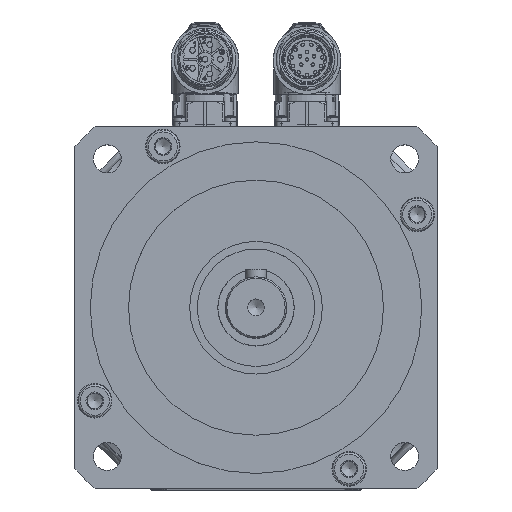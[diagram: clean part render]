
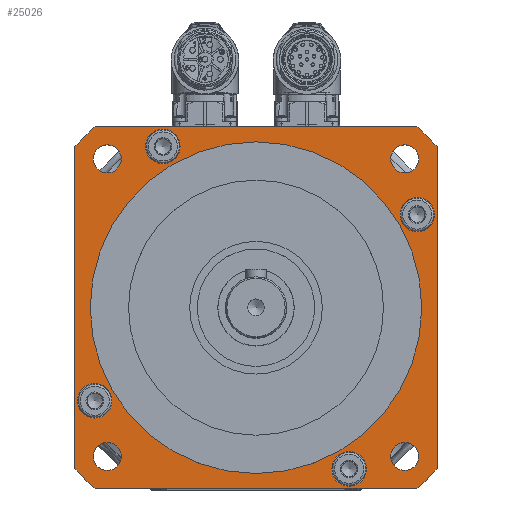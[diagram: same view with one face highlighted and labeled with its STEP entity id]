
A CAD part, top view. The second image highlights one B-rep face of the part: STEP entity #25026.
In plain terms, the highlighted planar face has unit normal (0, 0, 1).
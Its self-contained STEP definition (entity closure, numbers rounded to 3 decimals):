
#1999=LINE('',#36812,#3232);
#2003=LINE('',#36818,#3236);
#2004=LINE('',#36820,#3237);
#2005=LINE('',#36822,#3238);
#3232=VECTOR('',#29978,126.238);
#3236=VECTOR('',#29986,126.238);
#3237=VECTOR('',#29989,126.238);
#3238=VECTOR('',#29992,126.238);
#6058=FACE_BOUND('',#8301,.T.);
#6059=FACE_BOUND('',#8302,.T.);
#6060=FACE_BOUND('',#8303,.T.);
#6061=FACE_BOUND('',#8304,.T.);
#6062=FACE_BOUND('',#8305,.T.);
#6063=FACE_BOUND('',#8306,.T.);
#6064=FACE_BOUND('',#8307,.T.);
#6065=FACE_BOUND('',#8308,.T.);
#6066=FACE_BOUND('',#8309,.T.);
#6067=FACE_BOUND('',#8310,.T.);
#8301=EDGE_LOOP('',(#18042));
#8302=EDGE_LOOP('',(#18043));
#8303=EDGE_LOOP('',(#18044));
#8304=EDGE_LOOP('',(#18045));
#8305=EDGE_LOOP('',(#18046));
#8306=EDGE_LOOP('',(#18047));
#8307=EDGE_LOOP('',(#18048));
#8308=EDGE_LOOP('',(#18049));
#8309=EDGE_LOOP('',(#18050));
#8310=EDGE_LOOP('',(#18051,#18052,#18053,#18054,#18055,#18056,#18057,#18058));
#10210=CIRCLE('',#26707,5.5);
#10214=CIRCLE('',#26713,6.75);
#10216=CIRCLE('',#26717,5.5);
#10220=CIRCLE('',#26723,6.75);
#10222=CIRCLE('',#26727,5.5);
#10226=CIRCLE('',#26733,6.75);
#10230=CIRCLE('',#26740,6.75);
#10232=CIRCLE('',#26744,5.5);
#10241=CIRCLE('',#26759,65.);
#10242=CIRCLE('',#26762,95.);
#10244=CIRCLE('',#26765,95.);
#10247=CIRCLE('',#26769,95.);
#10248=CIRCLE('',#26771,95.);
#11516=VERTEX_POINT('',#36688);
#11520=VERTEX_POINT('',#36698);
#11522=VERTEX_POINT('',#36704);
#11526=VERTEX_POINT('',#36714);
#11528=VERTEX_POINT('',#36720);
#11532=VERTEX_POINT('',#36730);
#11536=VERTEX_POINT('',#36741);
#11538=VERTEX_POINT('',#36747);
#11547=VERTEX_POINT('',#36771);
#11548=VERTEX_POINT('',#36775);
#11550=VERTEX_POINT('',#36778);
#11552=VERTEX_POINT('',#36784);
#11554=VERTEX_POINT('',#36787);
#11557=VERTEX_POINT('',#36794);
#11559=VERTEX_POINT('',#36798);
#11560=VERTEX_POINT('',#36802);
#11562=VERTEX_POINT('',#36805);
#14120=EDGE_CURVE('',#11516,#11516,#10210,.T.);
#14124=EDGE_CURVE('',#11520,#11520,#10214,.T.);
#14126=EDGE_CURVE('',#11522,#11522,#10216,.T.);
#14130=EDGE_CURVE('',#11526,#11526,#10220,.T.);
#14132=EDGE_CURVE('',#11528,#11528,#10222,.T.);
#14136=EDGE_CURVE('',#11532,#11532,#10226,.T.);
#14140=EDGE_CURVE('',#11536,#11536,#10230,.T.);
#14142=EDGE_CURVE('',#11538,#11538,#10232,.T.);
#14151=EDGE_CURVE('',#11547,#11547,#10241,.T.);
#14153=EDGE_CURVE('',#11550,#11548,#10242,.T.);
#14157=EDGE_CURVE('',#11554,#11552,#10244,.T.);
#14163=EDGE_CURVE('',#11557,#11559,#10247,.T.);
#14165=EDGE_CURVE('',#11562,#11560,#10248,.T.);
#14169=EDGE_CURVE('',#11560,#11557,#1999,.T.);
#14173=EDGE_CURVE('',#11552,#11562,#2003,.T.);
#14174=EDGE_CURVE('',#11548,#11554,#2004,.T.);
#14175=EDGE_CURVE('',#11559,#11550,#2005,.T.);
#18042=ORIENTED_EDGE('',*,*,#14120,.T.);
#18043=ORIENTED_EDGE('',*,*,#14124,.T.);
#18044=ORIENTED_EDGE('',*,*,#14126,.T.);
#18045=ORIENTED_EDGE('',*,*,#14130,.T.);
#18046=ORIENTED_EDGE('',*,*,#14132,.T.);
#18047=ORIENTED_EDGE('',*,*,#14136,.T.);
#18048=ORIENTED_EDGE('',*,*,#14140,.T.);
#18049=ORIENTED_EDGE('',*,*,#14142,.T.);
#18050=ORIENTED_EDGE('',*,*,#14151,.T.);
#18051=ORIENTED_EDGE('',*,*,#14165,.T.);
#18052=ORIENTED_EDGE('',*,*,#14169,.T.);
#18053=ORIENTED_EDGE('',*,*,#14163,.T.);
#18054=ORIENTED_EDGE('',*,*,#14175,.T.);
#18055=ORIENTED_EDGE('',*,*,#14153,.T.);
#18056=ORIENTED_EDGE('',*,*,#14174,.T.);
#18057=ORIENTED_EDGE('',*,*,#14157,.T.);
#18058=ORIENTED_EDGE('',*,*,#14173,.T.);
#24387=PLANE('',#26778);
#25026=ADVANCED_FACE('',(#6058,#6059,#6060,#6061,#6062,#6063,#6064,#6065,
#6066,#6067),#24387,.T.);
#26707=AXIS2_PLACEMENT_3D('',#36689,#29835,#29836);
#26713=AXIS2_PLACEMENT_3D('',#36699,#29847,#29848);
#26717=AXIS2_PLACEMENT_3D('',#36705,#29855,#29856);
#26723=AXIS2_PLACEMENT_3D('',#36715,#29867,#29868);
#26727=AXIS2_PLACEMENT_3D('',#36721,#29875,#29876);
#26733=AXIS2_PLACEMENT_3D('',#36731,#29887,#29888);
#26740=AXIS2_PLACEMENT_3D('',#36742,#29901,#29902);
#26744=AXIS2_PLACEMENT_3D('',#36748,#29909,#29910);
#26759=AXIS2_PLACEMENT_3D('',#36772,#29939,#29940);
#26762=AXIS2_PLACEMENT_3D('',#36779,#29946,#29947);
#26765=AXIS2_PLACEMENT_3D('',#36788,#29954,#29955);
#26769=AXIS2_PLACEMENT_3D('',#36800,#29965,#29966);
#26771=AXIS2_PLACEMENT_3D('',#36806,#29970,#29971);
#26778=AXIS2_PLACEMENT_3D('',#36823,#29993,#29994);
#29835=DIRECTION('center_axis',(0.,0.,-1.));
#29836=DIRECTION('ref_axis',(0.,1.,0.));
#29847=DIRECTION('center_axis',(0.,0.,-1.));
#29848=DIRECTION('ref_axis',(0.,-1.,0.));
#29855=DIRECTION('center_axis',(0.,0.,-1.));
#29856=DIRECTION('ref_axis',(1.,0.,0.));
#29867=DIRECTION('center_axis',(0.,0.,-1.));
#29868=DIRECTION('ref_axis',(-1.,0.,0.));
#29875=DIRECTION('center_axis',(0.,0.,-1.));
#29876=DIRECTION('ref_axis',(0.,-1.,0.));
#29887=DIRECTION('center_axis',(0.,0.,-1.));
#29888=DIRECTION('ref_axis',(0.,1.,0.));
#29901=DIRECTION('center_axis',(0.,0.,-1.));
#29902=DIRECTION('ref_axis',(1.,0.,0.));
#29909=DIRECTION('center_axis',(0.,0.,-1.));
#29910=DIRECTION('ref_axis',(-1.,0.,0.));
#29939=DIRECTION('center_axis',(0.,0.,-1.));
#29940=DIRECTION('ref_axis',(-1.,0.,0.));
#29946=DIRECTION('center_axis',(0.,0.,1.));
#29947=DIRECTION('ref_axis',(-1.,0.,0.));
#29954=DIRECTION('center_axis',(0.,0.,1.));
#29955=DIRECTION('ref_axis',(-1.,0.,0.));
#29965=DIRECTION('center_axis',(0.,0.,1.));
#29966=DIRECTION('ref_axis',(-1.,0.,0.));
#29970=DIRECTION('center_axis',(0.,0.,1.));
#29971=DIRECTION('ref_axis',(-1.,0.,0.));
#29978=DIRECTION('',(0.,-1.,0.));
#29986=DIRECTION('',(-1.,0.,0.));
#29989=DIRECTION('',(0.,1.,0.));
#29992=DIRECTION('',(1.,0.,0.));
#29993=DIRECTION('center_axis',(0.,0.,1.));
#29994=DIRECTION('ref_axis',(1.,0.,0.));
#36688=CARTESIAN_POINT('',(58.336,52.836,15.));
#36689=CARTESIAN_POINT('Origin',(58.336,58.336,15.));
#36698=CARTESIAN_POINT('',(36.5,-69.97,15.));
#36699=CARTESIAN_POINT('Origin',(36.5,-63.22,15.));
#36704=CARTESIAN_POINT('',(52.836,-58.336,15.));
#36705=CARTESIAN_POINT('Origin',(58.336,-58.336,15.));
#36714=CARTESIAN_POINT('',(-69.97,-36.5,15.));
#36715=CARTESIAN_POINT('Origin',(-63.22,-36.5,15.));
#36720=CARTESIAN_POINT('',(-58.336,-52.836,15.));
#36721=CARTESIAN_POINT('Origin',(-58.336,-58.336,15.));
#36730=CARTESIAN_POINT('',(-36.5,69.97,15.));
#36731=CARTESIAN_POINT('Origin',(-36.5,63.22,15.));
#36741=CARTESIAN_POINT('',(69.97,36.5,15.));
#36742=CARTESIAN_POINT('Origin',(63.22,36.5,15.));
#36747=CARTESIAN_POINT('',(-52.836,58.336,15.));
#36748=CARTESIAN_POINT('Origin',(-58.336,58.336,15.));
#36771=CARTESIAN_POINT('',(65.,0.,15.));
#36772=CARTESIAN_POINT('Origin',(0.,0.,15.));
#36775=CARTESIAN_POINT('',(71.,-63.119,15.));
#36778=CARTESIAN_POINT('',(63.119,-71.,15.));
#36779=CARTESIAN_POINT('Origin',(0.,0.,15.));
#36784=CARTESIAN_POINT('',(63.119,71.,15.));
#36787=CARTESIAN_POINT('',(71.,63.119,15.));
#36788=CARTESIAN_POINT('Origin',(0.,0.,15.));
#36794=CARTESIAN_POINT('',(-71.,-63.119,15.));
#36798=CARTESIAN_POINT('',(-63.119,-71.,15.));
#36800=CARTESIAN_POINT('Origin',(0.,0.,15.));
#36802=CARTESIAN_POINT('',(-71.,63.119,15.));
#36805=CARTESIAN_POINT('',(-63.119,71.,15.));
#36806=CARTESIAN_POINT('Origin',(0.,0.,15.));
#36812=CARTESIAN_POINT('',(-71.,71.,15.));
#36818=CARTESIAN_POINT('',(71.,71.,15.));
#36820=CARTESIAN_POINT('',(71.,-71.,15.));
#36822=CARTESIAN_POINT('',(-71.,-71.,15.));
#36823=CARTESIAN_POINT('Origin',(0.,0.,15.));
